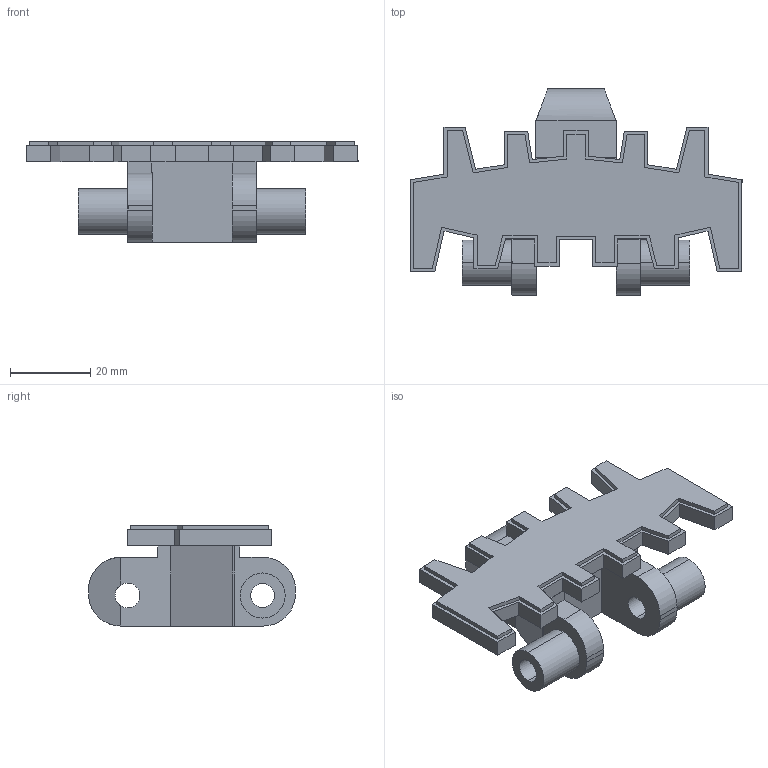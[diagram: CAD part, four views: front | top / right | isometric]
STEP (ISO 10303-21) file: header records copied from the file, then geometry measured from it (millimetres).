
FILE_DESCRIPTION (( 'STEP AP214' ), '1' );
FILE_NAME ('FMFT 5A.step', '2017-04-04T13:34:45', ( '' ), ( '' ), 'SwSTEP 2.0', 'SolidWorks 2015', '' );
FILE_SCHEMA (( 'AUTOMOTIVE_DESIGN' ));
Length unit declared in the file: millimetre
Products named in the file (1): FMFT 5A
Bounding box: 83 x 51.7 x 25 mm (x, y, z)
Volume: 26308.8 mm3; surface area: 12049.9 mm2
Topology: 1 solids, 1 shells, 139 faces, 396 edges, 260 vertices
Faces by surface type: plane 121, cylinder 18
Entity records: 4989 total; most frequent: CARTESIAN_POINT 814, ORIENTED_EDGE 792, DIRECTION 704, EDGE_CURVE 396, LINE 356, VECTOR 356, VERTEX_POINT 260, AXIS2_PLACEMENT_3D 174
